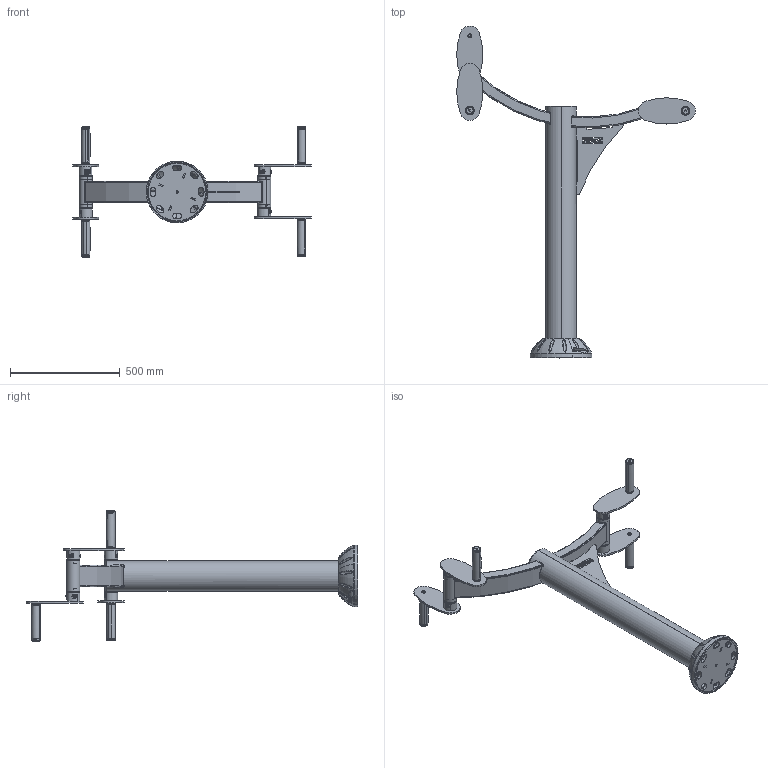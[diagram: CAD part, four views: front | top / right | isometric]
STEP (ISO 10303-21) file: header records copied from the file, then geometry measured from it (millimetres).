
FILE_DESCRIPTION (( 'STEP AP203' ), '1' );
FILE_NAME ('S0213A - TOURNIQUET DOUBLE V1.1.STEP', '2020-03-27T14:02:44', ( '' ), ( '' ), 'SwSTEP 2.0', 'SolidWorks 2019', '' );
FILE_SCHEMA (( 'CONFIG_CONTROL_DESIGN' ));
Length unit declared in the file: millimetre
Products named in the file (36): SB0112 - Vis Torx teton central M8x20_M8x20; PLATINE BASE ASS V2.0_RAL7012; SP0605 - Poignee plastique D.33,7 L=170; SRR0804 - Roulement 6205 52-25-15; SCH1806.A - Chapeau D135 V1.2; SR0416 - Rondelle plate petite M10 A2 ext 22mm; TROCOB-PMR0703 - Colonne base Duo Tourniquet-Traction Bras PMR L1128 V1.0; BATI-S0213A - BATI TOURNIQUET DOUBLE V1.1; SA1411.B - Axe articulation Inox 303 D25 L216 V3.1; SA1440 - Goupille avec plat D.15 V1.0; SB0132 - Joint torique 27 X 5 _d.28 f.7; PU-TOLPLAT - Platine base V1.0; MANIV-S0213 - MANIVELLE TOURNIQUET V2.1; SR0410 - Rondelle Grower M10 A2; TRECT-R750 - Tube rectangulaire cintré R750 100x50x3 L873 V1.0_Tourniquet double; Ass Joint torique Tourniquet - V幨o V1.0; SB0104 - Vis Torx teton central M10x20; SC0304 - Demi cache platine D140 V4.0; PU-TDRFIT225 - Tole renfort tube rectangulaire cintré R750 V1.0; PU-TOLGOPL - Gousset platine V2.0; SA1414.A - Axe poignée Inox D.20mm L173,5 V2.1; S0213A - TOURNIQUET DOUBLE V1.1; SR0421 - Rondelle plate M8 diamètre Ext. 30 mm A2; SBA1603.A - Bague manivelle support goupille V2.0; SBA1602.A - Bague 6205 L144 V1.0; SR0423 - Entretoise Nylon 20x28x7,5mm V1.0; TOLMAN-PMR0703 - Manivelle poignée Tourniquet V2.0_V‚lo elliptique; SPC0818 - Palier à collerette 15x19x23-16 V1.0; SBA1604.A - Bague support poignée V1.3; SB0131 - Joint torique 23 X 5 _d.28 f.7; SC0304 - CACHE PLATINE ASS V4.0; SR0433 - Rondelle plastique bouchon bague D60 d.25
Assembly tree (103 placements, depth 4):
  S0213A - TOURNIQUET DOUBLE V1.1
    BATI-S0213A - BATI TOURNIQUET DOUBLE V1.1
      TROCOB-PMR0703 - Colonne base Duo Tourniquet-Traction Bras PMR L1128 V1.0
      SCH1806.A - Chapeau D135 V1.2
      PU-TDRFIT225 - Tole renfort tube rectangulaire cintré R750 V1.0
      PLATINE BASE ASS V2.0_RAL7012
        PU-TOLPLAT - Platine base V1.0
        PU-TOLGOPL - Gousset platine V2.0  x4
      SBA1602.A - Bague 6205 L144 V1.0  x2
      TRECT-R750 - Tube rectangulaire cintré R750 100x50x3 L873 V1.0_Tourniquet double
    SC0304 - CACHE PLATINE ASS V4.0
      SC0304 - Demi cache platine D140 V4.0
      SB0112 - Vis Torx teton central M8x20_M8x20  x2
    SRR0804 - Roulement 6205 52-25-15  x4
    SA1411.B - Axe articulation Inox 303 D25 L216 V3.1  x2
    MANIV-S0213 - MANIVELLE TOURNIQUET V2.1
      TOLMAN-PMR0703 - Manivelle poignée Tourniquet V2.0_V‚lo elliptique
      SBA1603.A - Bague manivelle support goupille V2.0
      SA1440 - Goupille avec plat D.15 V1.0
      SA1414.A - Axe poignée Inox D.20mm L173,5 V2.1
      SR0423 - Entretoise Nylon 20x28x7,5mm V1.0
      SBA1604.A - Bague support poignée V1.3
      SPC0818 - Palier à collerette 15x19x23-16 V1.0  x2
      SR0421 - Rondelle plate M8 diamètre Ext. 30 mm A2
      SB0112 - Vis Torx teton central M8x20_M8x20
      SP0605 - Poignee plastique D.33,7 L=170
      SR0416 - Rondelle plate petite M10 A2 ext 22mm
      SB0104 - Vis Torx teton central M10x20
      SR0410 - Rondelle Grower M10 A2
    MANIV-S0213 - MANIVELLE TOURNIQUET V2.1
      TOLMAN-PMR0703 - Manivelle poignée Tourniquet V2.0_V‚lo elliptique
      SBA1603.A - Bague manivelle support goupille V2.0
      SA1440 - Goupille avec plat D.15 V1.0
      SA1414.A - Axe poignée Inox D.20mm L173,5 V2.1
      SR0423 - Entretoise Nylon 20x28x7,5mm V1.0
      SBA1604.A - Bague support poignée V1.3
      SPC0818 - Palier à collerette 15x19x23-16 V1.0  x2
      SR0421 - Rondelle plate M8 diamètre Ext. 30 mm A2
      SB0112 - Vis Torx teton central M8x20_M8x20
      SP0605 - Poignee plastique D.33,7 L=170
      SR0416 - Rondelle plate petite M10 A2 ext 22mm
      SB0104 - Vis Torx teton central M10x20
      SR0410 - Rondelle Grower M10 A2
    MANIV-S0213 - MANIVELLE TOURNIQUET V2.1
      TOLMAN-PMR0703 - Manivelle poignée Tourniquet V2.0_V‚lo elliptique
      SBA1603.A - Bague manivelle support goupille V2.0
      SA1440 - Goupille avec plat D.15 V1.0
      SA1414.A - Axe poignée Inox D.20mm L173,5 V2.1
      SR0423 - Entretoise Nylon 20x28x7,5mm V1.0
      SBA1604.A - Bague support poignée V1.3
      SPC0818 - Palier à collerette 15x19x23-16 V1.0  x2
      SR0421 - Rondelle plate M8 diamètre Ext. 30 mm A2
      SB0112 - Vis Torx teton central M8x20_M8x20
      SP0605 - Poignee plastique D.33,7 L=170
      SR0416 - Rondelle plate petite M10 A2 ext 22mm
      SB0104 - Vis Torx teton central M10x20
      SR0410 - Rondelle Grower M10 A2
    MANIV-S0213 - MANIVELLE TOURNIQUET V2.1
      TOLMAN-PMR0703 - Manivelle poignée Tourniquet V2.0_V‚lo elliptique
      SBA1603.A - Bague manivelle support goupille V2.0
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Bounding box: 1085.94 x 1510.49 x 594.2 mm (x, y, z)
Volume: 6287228.2 mm3; surface area: 2751299.8 mm2
Topology: 111 solids, 111 shells, 2278 faces, 5297 edges, 3334 vertices
Faces by surface type: cylinder 828, plane 504, bspline 344, cone 326, torus 236, sphere 40
Entity records: 124193 total; most frequent: CARTESIAN_POINT 95630, ORIENTED_EDGE 5080, DIRECTION 4296, EDGE_CURVE 2540, AXIS2_PLACEMENT_3D 1747, VERTEX_POINT 1620, EDGE_LOOP 1198, FACE_OUTER_BOUND 1036
